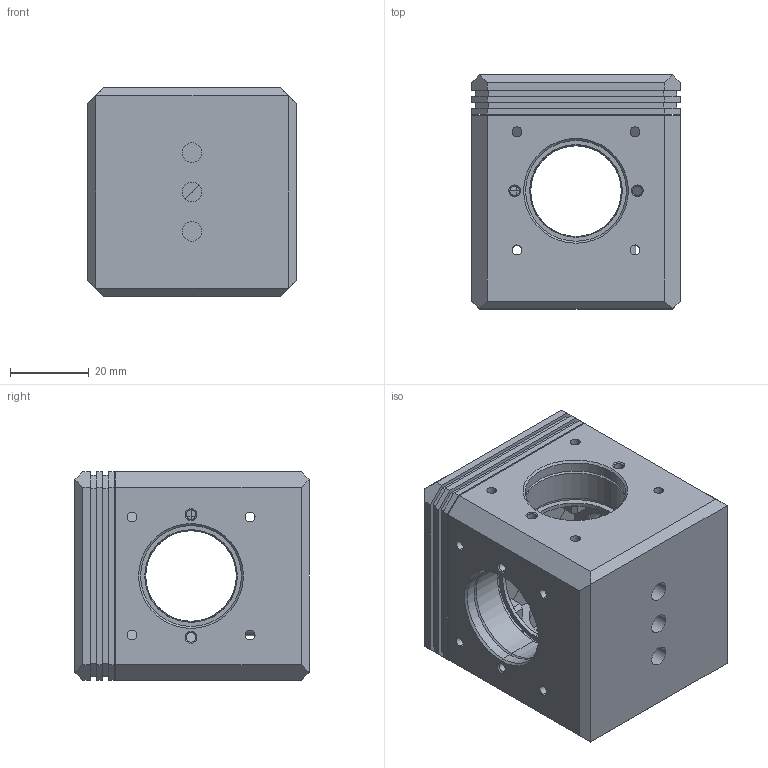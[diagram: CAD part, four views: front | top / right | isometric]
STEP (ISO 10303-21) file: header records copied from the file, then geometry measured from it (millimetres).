
FILE_DESCRIPTION (( 'STEP AP203' ), '1' );
FILE_NAME ('CSC1Q-MC.STEP', '2024-03-28T03:20:11', ( '' ), ( '' ), 'SwSTEP 2.0', 'SolidWorks 2021', '' );
FILE_SCHEMA (( 'CONFIG_CONTROL_DESIGN' ));
Length unit declared in the file: millimetre
Products named in the file (1): CSC1Q-MC
Bounding box: 53 x 59.5 x 53 mm (x, y, z)
Surface area: 30027.9 mm2 (no closed solid volume)
Topology: 0 solids, 28 shells, 377 faces, 1564 edges, 1207 vertices
Faces by surface type: plane 224, cylinder 98, cone 50, bspline 5
Entity records: 18231 total; most frequent: CARTESIAN_POINT 5460, DIRECTION 2483, ORIENTED_EDGE 2352, EDGE_CURVE 1564, VERTEX_POINT 1207, VECTOR 1111, LINE 1111, AXIS2_PLACEMENT_3D 686
